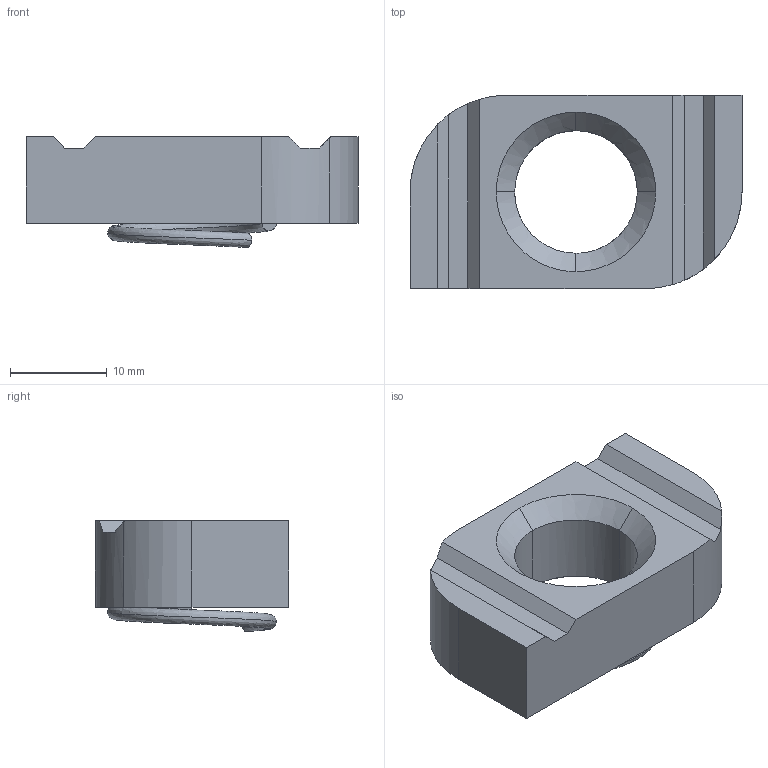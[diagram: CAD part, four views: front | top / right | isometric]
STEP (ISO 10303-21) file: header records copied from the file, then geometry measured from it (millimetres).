
FILE_DESCRIPTION(('TurboCAD Mac Pro'),'Build 980');
FILE_NAME('P4010.stp',' ',(''),(''),'ACIS Interop','IMSI','TurboCAD Mac Pro BY IMSI, INCORPORATED');
FILE_SCHEMA(('automotive_design'));
Length unit declared in the file: inch
Products named in the file (1): 1
Bounding box: 34.4 x 20 x 11.5 mm (x, y, z)
Volume: 4513.3 mm3; surface area: 2437.8 mm2
Topology: 1 solids, 1 shells, 30 faces, 75 edges, 48 vertices
Faces by surface type: plane 16, bspline 10, cylinder 4
Entity records: 2211 total; most frequent: CARTESIAN_POINT 1267, ORIENTED_EDGE 150, DIRECTION 121, EDGE_CURVE 75, VERTEX_POINT 48, LINE 41, VECTOR 41, AXIS2_PLACEMENT_3D 40
